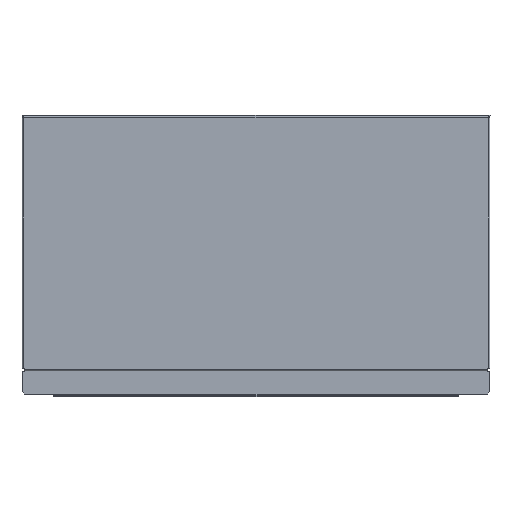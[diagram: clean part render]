
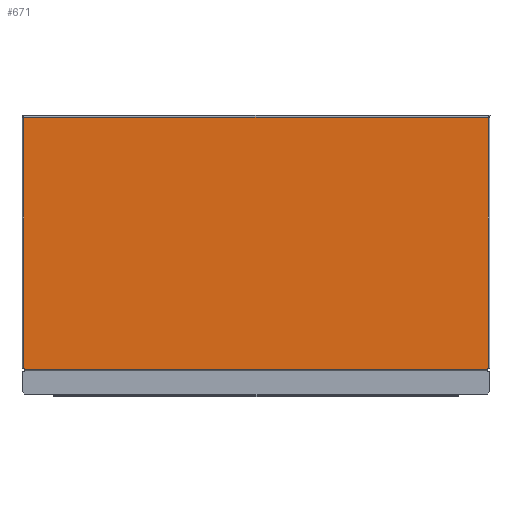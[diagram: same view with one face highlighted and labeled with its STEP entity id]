
A CAD part, front view. The second image highlights one B-rep face of the part: STEP entity #671.
In plain terms, the highlighted planar face has unit normal (0, -1, 0).
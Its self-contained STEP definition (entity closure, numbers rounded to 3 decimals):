
#18 = VERTEX_POINT ( 'NONE', #497 ) ;
#24 = VERTEX_POINT ( 'NONE', #493 ) ;
#27 = VERTEX_POINT ( 'NONE', #492 ) ;
#47 = VERTEX_POINT ( 'NONE', #485 ) ;
#149 = VERTEX_POINT ( 'NONE', #447 ) ;
#175 = VERTEX_POINT ( 'NONE', #439 ) ;
#179 = VERTEX_POINT ( 'NONE', #438 ) ;
#194 = VERTEX_POINT ( 'NONE', #434 ) ;
#277 = DIRECTION ( 'NONE',  ( 1., 0., 0. ) ) ;
#278 = DIRECTION ( 'NONE',  ( 0., -1., 0. ) ) ;
#279 = CARTESIAN_POINT ( 'NONE',  ( -155., -6., 17. ) ) ;
#281 = PLANE ( 'NONE',  #1239 ) ;
#353 = CARTESIAN_POINT ( 'NONE',  ( -154., -6., 17.5 ) ) ;
#379 = CARTESIAN_POINT ( 'NONE',  ( -154., -6., 183.5 ) ) ;
#434 = CARTESIAN_POINT ( 'NONE',  ( 154., -6., 17.5 ) ) ;
#438 = CARTESIAN_POINT ( 'NONE',  ( 153.5, -6., 17.5 ) ) ;
#439 = CARTESIAN_POINT ( 'NONE',  ( -154., -6., 184. ) ) ;
#447 = CARTESIAN_POINT ( 'NONE',  ( 154., -6., 184. ) ) ;
#485 = CARTESIAN_POINT ( 'NONE',  ( 154., -6., 183.5 ) ) ;
#492 = CARTESIAN_POINT ( 'NONE',  ( 153.5, -6., 17. ) ) ;
#493 = CARTESIAN_POINT ( 'NONE',  ( -153.5, -6., 17. ) ) ;
#497 = CARTESIAN_POINT ( 'NONE',  ( -153.5, -6., 17.5 ) ) ;
#534 = VERTEX_POINT ( 'NONE', #379 ) ;
#557 = VERTEX_POINT ( 'NONE', #353 ) ;
#671 = ADVANCED_FACE ( 'NONE', ( #1975 ), #281, .T. ) ;
#750 = EDGE_CURVE ( 'NONE', #534, #557, #2077, .T. ) ;
#755 = EDGE_CURVE ( 'NONE', #557, #18, #2084, .T. ) ;
#756 = EDGE_CURVE ( 'NONE', #18, #24, #2087, .T. ) ;
#757 = EDGE_CURVE ( 'NONE', #24, #27, #2089, .T. ) ;
#758 = EDGE_CURVE ( 'NONE', #27, #179, #2091, .T. ) ;
#759 = EDGE_CURVE ( 'NONE', #179, #194, #2093, .T. ) ;
#760 = EDGE_CURVE ( 'NONE', #47, #194, #2095, .T. ) ;
#761 = EDGE_CURVE ( 'NONE', #149, #47, #2097, .T. ) ;
#762 = EDGE_CURVE ( 'NONE', #175, #149, #2099, .T. ) ;
#763 = EDGE_CURVE ( 'NONE', #175, #534, #2101, .T. ) ;
#922 = EDGE_LOOP ( 'NONE', ( #1920, #1919, #1918, #1917, #1916, #1915, #1914, #1913, #1912, #1911 ) ) ;
#1239 = AXIS2_PLACEMENT_3D ( 'NONE', #279, #278, #277 ) ;
#1542 = DIRECTION ( 'NONE',  ( 0., 0., -1. ) ) ;
#1544 = CARTESIAN_POINT ( 'NONE',  ( -154., -6., 202.385 ) ) ;
#1545 = DIRECTION ( 'NONE',  ( 1., 0., 0. ) ) ;
#1546 = CARTESIAN_POINT ( 'NONE',  ( -155., -6., 184. ) ) ;
#1547 = DIRECTION ( 'NONE',  ( 0., 0., -1. ) ) ;
#1548 = CARTESIAN_POINT ( 'NONE',  ( 154., -6., 202.385 ) ) ;
#1549 = DIRECTION ( 'NONE',  ( 0., 0., -1. ) ) ;
#1550 = CARTESIAN_POINT ( 'NONE',  ( 154., -6., 202.385 ) ) ;
#1552 = DIRECTION ( 'NONE',  ( 1., 0., 0. ) ) ;
#1554 = CARTESIAN_POINT ( 'NONE',  ( 153.5, -6., 17.5 ) ) ;
#1556 = DIRECTION ( 'NONE',  ( 0., 0., 1. ) ) ;
#1557 = CARTESIAN_POINT ( 'NONE',  ( 153.5, -6., 15.3 ) ) ;
#1558 = DIRECTION ( 'NONE',  ( 1., 0., 0. ) ) ;
#1559 = CARTESIAN_POINT ( 'NONE',  ( -155., -6., 17. ) ) ;
#1561 = DIRECTION ( 'NONE',  ( 0., 0., -1. ) ) ;
#1562 = CARTESIAN_POINT ( 'NONE',  ( -153.5, -6., 17.5 ) ) ;
#1563 = DIRECTION ( 'NONE',  ( 1., 0., 0. ) ) ;
#1564 = CARTESIAN_POINT ( 'NONE',  ( -155., -6., 17.5 ) ) ;
#1578 = DIRECTION ( 'NONE',  ( 0., 0., -1. ) ) ;
#1579 = CARTESIAN_POINT ( 'NONE',  ( -154., -6., 202.385 ) ) ;
#1911 = ORIENTED_EDGE ( 'NONE', *, *, #763, .T. ) ;
#1912 = ORIENTED_EDGE ( 'NONE', *, *, #762, .F. ) ;
#1913 = ORIENTED_EDGE ( 'NONE', *, *, #761, .F. ) ;
#1914 = ORIENTED_EDGE ( 'NONE', *, *, #760, .F. ) ;
#1915 = ORIENTED_EDGE ( 'NONE', *, *, #759, .T. ) ;
#1916 = ORIENTED_EDGE ( 'NONE', *, *, #758, .T. ) ;
#1917 = ORIENTED_EDGE ( 'NONE', *, *, #757, .T. ) ;
#1918 = ORIENTED_EDGE ( 'NONE', *, *, #756, .T. ) ;
#1919 = ORIENTED_EDGE ( 'NONE', *, *, #755, .T. ) ;
#1920 = ORIENTED_EDGE ( 'NONE', *, *, #750, .T. ) ;
#1975 = FACE_OUTER_BOUND ( 'NONE', #922, .T. ) ;
#2077 = LINE ( 'NONE', #1579, #2078 ) ;
#2078 = VECTOR ( 'NONE', #1578, 1000. ) ;
#2084 = LINE ( 'NONE', #1564, #2086 ) ;
#2086 = VECTOR ( 'NONE', #1563, 1000. ) ;
#2087 = LINE ( 'NONE', #1562, #2088 ) ;
#2088 = VECTOR ( 'NONE', #1561, 1000. ) ;
#2089 = LINE ( 'NONE', #1559, #2090 ) ;
#2090 = VECTOR ( 'NONE', #1558, 1000. ) ;
#2091 = LINE ( 'NONE', #1557, #2092 ) ;
#2092 = VECTOR ( 'NONE', #1556, 1000. ) ;
#2093 = LINE ( 'NONE', #1554, #2094 ) ;
#2094 = VECTOR ( 'NONE', #1552, 1000. ) ;
#2095 = LINE ( 'NONE', #1550, #2096 ) ;
#2096 = VECTOR ( 'NONE', #1549, 1000. ) ;
#2097 = LINE ( 'NONE', #1548, #2098 ) ;
#2098 = VECTOR ( 'NONE', #1547, 1000. ) ;
#2099 = LINE ( 'NONE', #1546, #2100 ) ;
#2100 = VECTOR ( 'NONE', #1545, 1000. ) ;
#2101 = LINE ( 'NONE', #1544, #2102 ) ;
#2102 = VECTOR ( 'NONE', #1542, 1000. ) ;
